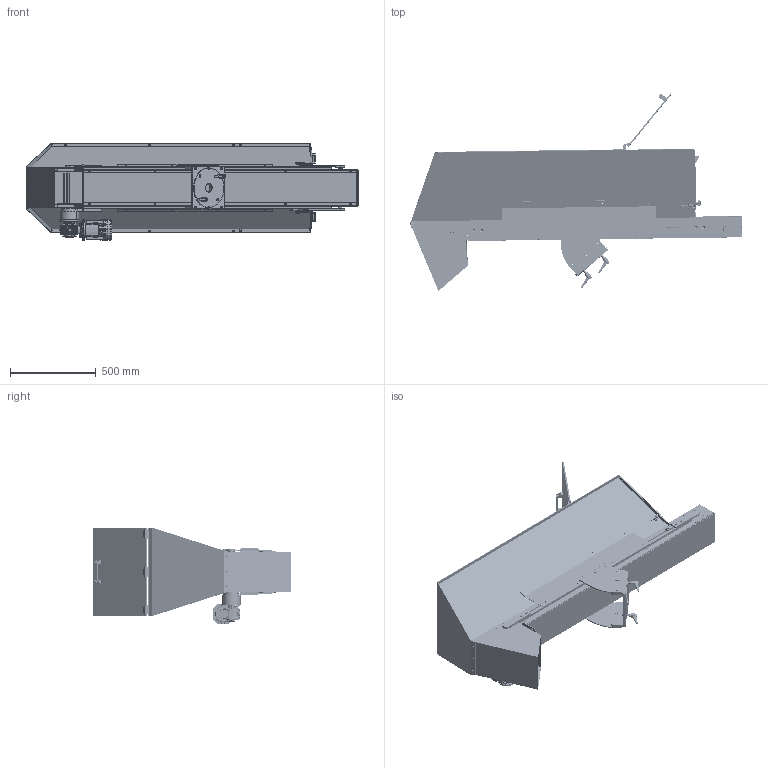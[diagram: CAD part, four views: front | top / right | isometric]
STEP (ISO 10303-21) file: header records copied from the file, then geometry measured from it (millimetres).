
FILE_DESCRIPTION (( 'STEP AP214' ), '1' );
FILE_NAME ('GM000487 Hopper feeder 100lt Inox_DX.STEP', '2023-07-20T15:07:10', ( '' ), ( '' ), 'SwSTEP 2.0', 'SolidWorks 2022', '' );
FILE_SCHEMA (( 'AUTOMOTIVE_DESIGN' ));
Length unit declared in the file: millimetre
Products named in the file (71): Copia (2) di CARICATORE_CUFFIA_SUPERIORE^CM000781; Copia (2) di CARICATORE_PIASTRA_FISSAGG^CM000781; CARICATORE_SERRAGGIO_DIR_FISS(2)^Copia (2) di CARICATORE_SERRAGGIO_DIR_ASS_ASM_CM000781; Copia di CARICATORE_CHIUSURA_CUFFIA_POL^CM000781; Copia (2) di CARICATORE_PORTELLA_CARICO^CM000781; Copia di NORM30333_FIANCO_DI_RITORNO_SX_REV A^CM000781; CARICATORE_GIUNTO_ELASTICO_3^Copia (2) di CARICATORE_GIUNTO_ELASTICO__ASM_CM000781; Copia (2) di CARICATORE_CUFFIA_DI_SCARICO^CM000781; CARICATORE_SERRAGGIO_DIR_LEVA(2)^Copia (2) di CARICATORE_SERRAGGIO_DIR_ASS_ASM_CM000781; Copia (2) di CARICATORE_FERMA_PEZZI^CM000781; Copia (2) di CARICATORE_PERNO_RINVIO^CM000781; Copia di NORM30333_CUFFIA_DI_RITORNO_REV A^CM000781; Copia di CARICATORE_DISTANZIALE_MOTORID^CM000781; CARICATORE_SERRAGGIO_DIR_GANCIO(2)^Copia (2) di CARICATORE_SERRAGGIO_DIR_ASS_ASM_CM000781; Copia (2) di CARICATORE_FLANGIA_PORTAMOT^CM000781; Copia di NORM30333_LAM_DI_RITORNO_FONDO_REV A^CM000781; Copia (2) di CARICATORE_TRAMOGGIA_LATO_DX^CM000781; Copia (2) di CARICATORE_CHIUSURA_CUFFIA_2^CM000781; Copia di CARICATORE_SPESS_PORTELLA_POST^CM000781; Copia (2) di CARICATORE_CERNIERA_POST_ASS_ASM^CM000781; Copia (2) di CARICATORE_TRAMOGGIA_LATO_SX^CM000781; Copia di CARICATORE_ALBERO_RIDUTTORE^CM000781; Copia (2) di CARICATORE_CHIUSURA_CUFFIA_1^CM000781; Copia (2) di CARICATORE_RULLO_PROFILO^CM000781; Copia (2) di CARICATORE_SUPP_SPONDA_DX^CM000781; CARICATORE_CERNIERA_ALETTA(2)^Copia (2) di CARICATORE_CERNIERA_POST_ASS_ASM_CM000781; Copia di NORM30333_LAMIERA_FONDO_REV A^cm000781; Copia di CARICATORE_TRAVERSA_SOST^CM000781; Copia (2) di CARICATORE_CHIUSURA_TEN_LAT^CM000781; CM000781_Destra; Copia di NORM30333_LONGHERONE_REV A^CM000781; Copia di CARICATORE_CHIAVETTA_RIDUTTORE^CM000781; CARICATORE_GIUNTO_ELASTICO_1^Copia (2) di CARICATORE_GIUNTO_ELASTICO__ASM_CM000781; Copia di NORM30333_FIANCO_DI_RITORNO_DX_REV A^CM000781; Copia (2) di CARICATORE_CUSCINETTO^CM000781; Copia di CARICATORE_CHIUSURA_CUFFIA_POL2^CM000781; Copia di CARICATORE_SUP_PIATTO_VERT^CM000781; Copia di CARICATORE_ROND_CHIUS_RIDUTTORE^CM000781; Copia (2) di CARICATORE_TENDINASTRO^CM000781; Copia (2) di CARICATORE_TRAMOG_LATO_SCARICO^CM000781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
Assembly tree (96 placements, depth 4):
  GM000487 Hopper feeder 100lt Inox_DX
    CM000781_Destra
      Copia (2) di CARICATORE_GIUNTO_ELASTICO__ASM^CM000781
        CARICATORE_GIUNTO_ELASTICO_1^Copia (2) di CARICATORE_GIUNTO_ELASTICO__ASM_CM000781
        CARICATORE_GIUNTO_ELASTICO_2^Copia (2) di CARICATORE_GIUNTO_ELASTICO__ASM_CM000781
        CARICATORE_GIUNTO_ELASTICO_3^Copia (2) di CARICATORE_GIUNTO_ELASTICO__ASM_CM000781
      Copia (2) di CARICATORE_CERNIERA_ASSIEME_ASM^CM000781  x3
        CARICATORE_CERNIERA_CORPO(2)^Copia (2) di CARICATORE_CERNIERA_ASSIEME_ASM_CM000781
        CARICATORE_CERNIERA_ALETTA(2)^Copia (2) di CARICATORE_CERNIERA_ASSIEME_ASM_CM000781
      Copia (2) di CARICATORE_CERNIERA_POST_ASS_ASM^CM000781  x3
        CARICATORE_CERNIERA_CORPO(2)^Copia (2) di CARICATORE_CERNIERA_POST_ASS_ASM_CM000781
        CARICATORE_CERNIERA_ALETTA(2)^Copia (2) di CARICATORE_CERNIERA_POST_ASS_ASM_CM000781
      Copia (2) di CARICATORE_SERRAGGIO_DIR_ASS_ASM^CM000781  x2
        CARICATORE_SERRAGGIO_DIR_FISS(2)^Copia (2) di CARICATORE_SERRAGGIO_DIR_ASS_ASM_CM000781
        CARICATORE_SERRAGGIO_DIR_LEVA(2)^Copia (2) di CARICATORE_SERRAGGIO_DIR_ASS_ASM_CM000781
        CARICATORE_SERRAGGIO_DIR_GANCIO(2)^Copia (2) di CARICATORE_SERRAGGIO_DIR_ASS_ASM_CM000781
      Copia (2) di CARICATORE_RULLO_PROFILO^CM000781  x2
      Copia (2) di CARICATORE_GOMMATURA_RULLO_MOTO^CM000781
      Copia di CARICATORE_PERNO_MOTORE^CM000781
      Copia (2) di CARICATORE_PERNO_RINVIO^CM000781  x3
      Copia (2) di CARICATORE_CUSCINETTO^CM000781  x3
      Copia (2) di CARICATORE_FLANGIA_RINVIO^CM000781  x3
      Copia (2) di CARICATORE_TRAVERSA^CM000781  x3
      Copia (2) di CARICATORE_PROFILO_POLIZENE_SX^CM000781
      Copia (2) di CARICATORE_PROFILO_POLIZENE_DX^CM000781
      Copia (2) di CARICATORE_FLANGIA_PORTAMOT^CM000781
      Copia di CARICATORE_MOTORIDUTTORE_F^CM000781
      Copia di CARICATORE_ALBERO_RIDUTTORE^CM000781
      Copia di CARICATORE_CHIAVETTA_LATO_TAMB^CM000781
      Copia di CARICATORE_CHIAVETTA_LATO_RIDUT^CM000781
      Copia di CARICATORE_CHIAVETTA_RIDUTTORE^CM000781  x2
      Copia di CARICATORE_ROND_CHIUS_RIDUTTORE^CM000781
      Copia di CARICATORE_DISTANZIALE_MOTORID^CM000781
      Copia (2) di CARICATORE_CUSCIN_MOTORE^CM000781
      Copia (2) di CARICATORE_TENDINASTRO^CM000781  x2
      Copia (2) di CARICATORE_SUPP_SPONDA_DX^CM000781
      Copia (2) di CARICATORE_SUPP_SPONDA_SX^CM000781
      Copia (2) di CARICATORE_TRAMOGGIA_LATO_DX^CM000781
      Copia (2) di CARICATORE_TRAMOGGIA_LATO_SX^CM000781
      Copia (2) di CARICATORE_TRAMOGG_LATO_CAR^CM000781
      Copia (2) di CARICATORE_CUFFIA_DI_SCARICO^CM000781
      Copia (2) di CARICATORE_CUFFIA_SUPERIORE^CM000781
      Copia (2) di CARICATORE_PIATTO_CAVA_PROF^CM000781  x2
      Copia (2) di CARICATORE_TRAMOG_LATO_SCARICO^CM000781
      Copia (2) di CARICATORE_CHIUSURA_TEN_LAT^CM000781  x2
      Copia (2) di CARICATORE_TRAV_PORTACER^CM000781
      Copia (2) di CARICATORE_PORTELLA_CARICO^CM000781
      Copia (2) di CARICATORE_MANIGLIA^CM000781
      Copia (2) di CARICATORE_PIATTO_CERNIERE_POST^CM000781
      Copia (2) di CARICATORE_PORTELLA_POSTERIORE^CM000781
      Copia (2) di CARICATORE_MANOPOLA_LOBI_2^CM000781
      Copia (2) di CARICATORE_CHIUSURA_CUFFIA_2^CM000781
      Copia (2) di CARICATORE_CHIUSURA_CUFFIA_1^CM000781
      Copia (2) di CARICATORE_DISTA_CHIUS_CUFFIA^CM000781  x4
      Copia (2) di CARICATORE_FERMA_PEZZI^CM000781
      Copia (2) di CARICATORE_PIASTRA_FISSAGG^CM000781  x2
      Copia di CARICATORE_SUP_PIATTO_VERT^CM000781  x2
      Copia di CARICATORE_TRAVERSA_SOST^CM000781
      Copia di CARICATORE_SPESS_PORTELLA_POST^CM000781
      Copia di CARICATORE_CHIUSURA_CUFFIA_POL^CM000781
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Bounding box: 1935.84 x 1153.16 x 564.6 mm (x, y, z)
Volume: 16279486.2 mm3; surface area: 14406875.8 mm2
Topology: 78 solids, 239 shells, 5672 faces, 15012 edges, 9705 vertices
Faces by surface type: plane 2504, cylinder 2219, cone 529, bspline 189, torus 183, sphere 48
Entity records: 200242 total; most frequent: CARTESIAN_POINT 85905, ORIENTED_EDGE 23368, DIRECTION 19115, EDGE_CURVE 11882, VERTEX_POINT 7691, AXIS2_PLACEMENT_3D 7180, EDGE_LOOP 5345, VECTOR 4755
